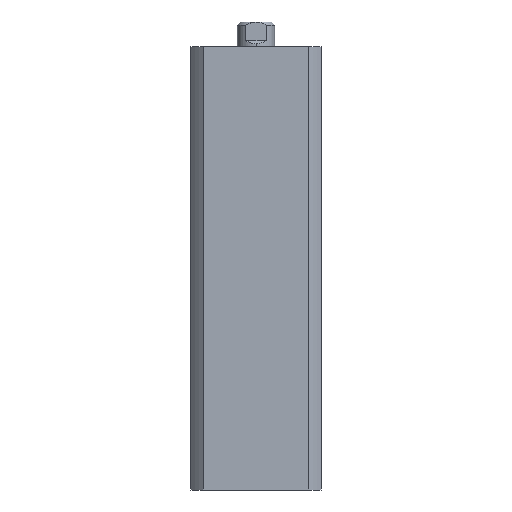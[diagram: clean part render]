
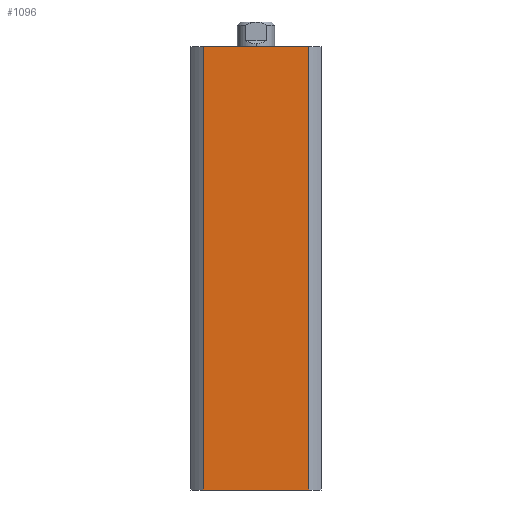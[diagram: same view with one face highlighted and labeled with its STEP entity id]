
A CAD part, left-side view. The second image highlights one B-rep face of the part: STEP entity #1096.
In plain terms, the highlighted planar face has unit normal (-1, 0, 0).
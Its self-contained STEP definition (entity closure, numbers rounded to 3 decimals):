
#477 = EDGE_LOOP ( 'NONE', ( #631, #648, #664, #620 ) ) ;
#604 = FACE_OUTER_BOUND ( 'NONE', #477, .T. ) ;
#620 = ORIENTED_EDGE ( 'NONE', *, *, #4477, .T. ) ;
#631 = ORIENTED_EDGE ( 'NONE', *, *, #4523, .F. ) ;
#634 = VERTEX_POINT ( 'NONE', #1375 ) ;
#648 = ORIENTED_EDGE ( 'NONE', *, *, #4515, .F. ) ;
#664 = ORIENTED_EDGE ( 'NONE', *, *, #4524, .F. ) ;
#832 = CARTESIAN_POINT ( 'NONE',  ( -21., 21., 143. ) ) ;
#836 = PLANE ( 'NONE',  #1204 ) ;
#838 = DIRECTION ( 'NONE',  ( 1., 0., 0. ) ) ;
#839 = DIRECTION ( 'NONE',  ( 0., 1., 0. ) ) ;
#1096 = ADVANCED_FACE ( 'NONE', ( #604 ), #836, .F. ) ;
#1204 = AXIS2_PLACEMENT_3D ( 'NONE', #832, #838, #839 ) ;
#1316 = VERTEX_POINT ( 'NONE', #1552 ) ;
#1326 = VERTEX_POINT ( 'NONE', #1558 ) ;
#1375 = CARTESIAN_POINT ( 'NONE',  ( -21., 16.971, 0. ) ) ;
#1552 = CARTESIAN_POINT ( 'NONE',  ( -21., 16.971, 143. ) ) ;
#1558 = CARTESIAN_POINT ( 'NONE',  ( -21., -16.971, 143. ) ) ;
#1820 = DIRECTION ( 'NONE',  ( 0., -1., 0. ) ) ;
#1824 = CARTESIAN_POINT ( 'NONE',  ( -21., 21., 0. ) ) ;
#1994 = DIRECTION ( 'NONE',  ( 0., -1., 0. ) ) ;
#2000 = CARTESIAN_POINT ( 'NONE',  ( -21., 21., 143. ) ) ;
#2019 = CARTESIAN_POINT ( 'NONE',  ( -21., -16.971, 143. ) ) ;
#2020 = DIRECTION ( 'NONE',  ( 0., 0., -1. ) ) ;
#2021 = CARTESIAN_POINT ( 'NONE',  ( -21., 16.971, 143. ) ) ;
#2022 = DIRECTION ( 'NONE',  ( 0., 0., 1. ) ) ;
#2564 = LINE ( 'NONE', #1824, #2566 ) ;
#2566 = VECTOR ( 'NONE', #1820, 1000. ) ;
#3147 = LINE ( 'NONE', #2000, #3152 ) ;
#3152 = VECTOR ( 'NONE', #1994, 1000. ) ;
#3167 = LINE ( 'NONE', #2019, #3170 ) ;
#3169 = LINE ( 'NONE', #2021, #3172 ) ;
#3170 = VECTOR ( 'NONE', #2020, 1000. ) ;
#3172 = VECTOR ( 'NONE', #2022, 1000. ) ;
#3542 = VERTEX_POINT ( 'NONE', #4124 ) ;
#4124 = CARTESIAN_POINT ( 'NONE',  ( -21., -16.971, 0. ) ) ;
#4477 = EDGE_CURVE ( 'NONE', #634, #3542, #2564, .T. ) ;
#4515 = EDGE_CURVE ( 'NONE', #1316, #1326, #3147, .T. ) ;
#4523 = EDGE_CURVE ( 'NONE', #1326, #3542, #3167, .T. ) ;
#4524 = EDGE_CURVE ( 'NONE', #634, #1316, #3169, .T. ) ;
